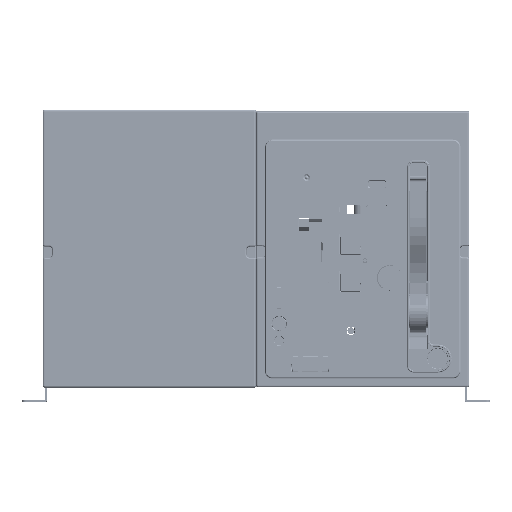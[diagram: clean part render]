
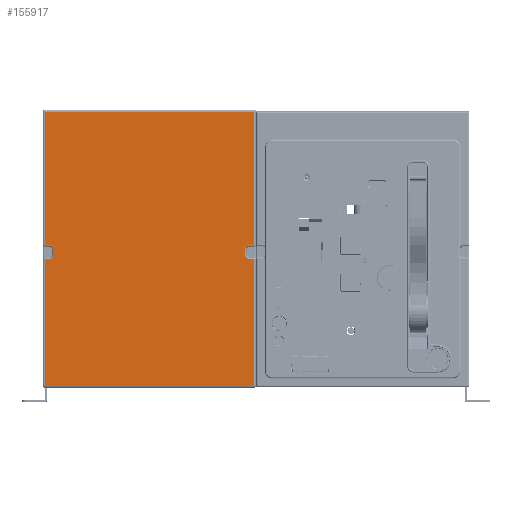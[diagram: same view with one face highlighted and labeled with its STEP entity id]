
A CAD part, top view. The second image highlights one B-rep face of the part: STEP entity #155917.
In plain terms, the highlighted planar face has unit normal (0, 0, 1).
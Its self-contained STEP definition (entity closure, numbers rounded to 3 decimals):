
#149996=DIRECTION('',(0.,-1.,0.));
#149997=VECTOR('',#149996,175.5);
#149998=CARTESIAN_POINT('',(-145.,-14.5,49.));
#149999=LINE('',#149998,#149997);
#150114=DIRECTION('',(0.,-1.,0.));
#150115=VECTOR('',#150114,185.1);
#150116=CARTESIAN_POINT('',(-145.,190.,49.));
#150117=LINE('',#150116,#150115);
#150133=DIRECTION('',(-1.,0.,0.));
#150134=VECTOR('',#150133,290.);
#150135=CARTESIAN_POINT('',(145.,190.,49.));
#150136=LINE('',#150135,#150134);
#150141=CARTESIAN_POINT('',(139.5,-1.6,49.));
#150142=DIRECTION('',(0.,0.,1.));
#150143=DIRECTION('',(0.,1.,0.));
#150144=AXIS2_PLACEMENT_3D('',#150141,#150142,#150143);
#150146=CARTESIAN_POINT('',(139.5,-8.,49.));
#150147=DIRECTION('',(0.,0.,1.));
#150148=DIRECTION('',(-1.,0.,0.));
#150149=AXIS2_PLACEMENT_3D('',#150146,#150147,#150148);
#150151=CARTESIAN_POINT('',(-139.5,-8.,49.));
#150152=DIRECTION('',(0.,0.,1.));
#150153=DIRECTION('',(0.,-1.,0.));
#150154=AXIS2_PLACEMENT_3D('',#150151,#150152,#150153);
#150156=CARTESIAN_POINT('',(-139.5,-1.6,49.));
#150157=DIRECTION('',(0.,0.,1.));
#150158=DIRECTION('',(1.,0.,0.));
#150159=AXIS2_PLACEMENT_3D('',#150156,#150157,#150158);
#150165=DIRECTION('',(0.,1.,0.));
#150166=VECTOR('',#150165,185.1);
#150167=CARTESIAN_POINT('',(145.,4.9,49.));
#150168=LINE('',#150167,#150166);
#150211=DIRECTION('',(1.,0.,0.));
#150212=VECTOR('',#150211,290.);
#150213=CARTESIAN_POINT('',(-145.,-190.,49.));
#150214=LINE('',#150213,#150212);
#150244=DIRECTION('',(0.,1.,0.));
#150245=VECTOR('',#150244,175.5);
#150246=CARTESIAN_POINT('',(145.,-190.,49.));
#150247=LINE('',#150246,#150245);
#150267=DIRECTION('',(-1.,0.,0.));
#150268=VECTOR('',#150267,5.5);
#150269=CARTESIAN_POINT('',(145.,-14.5,49.));
#150270=LINE('',#150269,#150268);
#150290=DIRECTION('',(0.,1.,0.));
#150291=VECTOR('',#150290,6.4);
#150292=CARTESIAN_POINT('',(133.,-8.,49.));
#150293=LINE('',#150292,#150291);
#150317=DIRECTION('',(1.,0.,0.));
#150318=VECTOR('',#150317,5.5);
#150319=CARTESIAN_POINT('',(139.5,4.9,49.));
#150320=LINE('',#150319,#150318);
#153930=DIRECTION('',(-1.,0.,0.));
#153931=VECTOR('',#153930,5.5);
#153932=CARTESIAN_POINT('',(-139.5,-14.5,49.));
#153933=LINE('',#153932,#153931);
#153961=DIRECTION('',(0.,-1.,0.));
#153962=VECTOR('',#153961,6.4);
#153963=CARTESIAN_POINT('',(-133.,-1.6,49.));
#153964=LINE('',#153963,#153962);
#153992=DIRECTION('',(1.,0.,0.));
#153993=VECTOR('',#153992,5.5);
#153994=CARTESIAN_POINT('',(-145.,4.9,49.));
#153995=LINE('',#153994,#153993);
#154219=CARTESIAN_POINT('',(-145.,-14.5,49.));
#154220=VERTEX_POINT('',#154219);
#154221=CARTESIAN_POINT('',(-145.,-190.,49.));
#154222=VERTEX_POINT('',#154221);
#154251=CARTESIAN_POINT('',(-145.,4.9,49.));
#154252=VERTEX_POINT('',#154251);
#154253=CARTESIAN_POINT('',(-145.,190.,49.));
#154254=VERTEX_POINT('',#154253);
#154257=CARTESIAN_POINT('',(145.,190.,49.));
#154258=VERTEX_POINT('',#154257);
#154261=CARTESIAN_POINT('',(145.,4.9,49.));
#154262=VERTEX_POINT('',#154261);
#154263=CARTESIAN_POINT('',(139.5,4.9,49.));
#154264=VERTEX_POINT('',#154263);
#154265=CARTESIAN_POINT('',(133.,-1.6,49.));
#154266=VERTEX_POINT('',#154265);
#154267=CARTESIAN_POINT('',(133.,-8.,49.));
#154268=VERTEX_POINT('',#154267);
#154269=CARTESIAN_POINT('',(139.5,-14.5,49.));
#154270=VERTEX_POINT('',#154269);
#154271=CARTESIAN_POINT('',(145.,-14.5,49.));
#154272=VERTEX_POINT('',#154271);
#154273=CARTESIAN_POINT('',(145.,-190.,49.));
#154274=VERTEX_POINT('',#154273);
#154275=CARTESIAN_POINT('',(-139.5,-14.5,49.));
#154276=VERTEX_POINT('',#154275);
#154277=CARTESIAN_POINT('',(-133.,-8.,49.));
#154278=VERTEX_POINT('',#154277);
#154279=CARTESIAN_POINT('',(-133.,-1.6,49.));
#154280=VERTEX_POINT('',#154279);
#154281=CARTESIAN_POINT('',(-139.5,4.9,49.));
#154282=VERTEX_POINT('',#154281);
#155881=CARTESIAN_POINT('',(0.,0.,49.));
#155882=DIRECTION('',(0.,0.,1.));
#155883=DIRECTION('',(1.,0.,0.));
#155884=AXIS2_PLACEMENT_3D('',#155881,#155882,#155883);
#155885=PLANE('',#155884);
#155887=ORIENTED_EDGE('',*,*,#155886,.F.);
#155889=ORIENTED_EDGE('',*,*,#155888,.F.);
#155891=ORIENTED_EDGE('',*,*,#155890,.T.);
#155893=ORIENTED_EDGE('',*,*,#155892,.F.);
#155895=ORIENTED_EDGE('',*,*,#155894,.T.);
#155897=ORIENTED_EDGE('',*,*,#155896,.F.);
#155899=ORIENTED_EDGE('',*,*,#155898,.F.);
#155901=ORIENTED_EDGE('',*,*,#155900,.F.);
#155902=ORIENTED_EDGE('',*,*,#155681,.F.);
#155904=ORIENTED_EDGE('',*,*,#155903,.F.);
#155906=ORIENTED_EDGE('',*,*,#155905,.T.);
#155908=ORIENTED_EDGE('',*,*,#155907,.F.);
#155910=ORIENTED_EDGE('',*,*,#155909,.T.);
#155912=ORIENTED_EDGE('',*,*,#155911,.F.);
#155913=ORIENTED_EDGE('',*,*,#155847,.F.);
#155914=ORIENTED_EDGE('',*,*,#155871,.F.);
#155915=EDGE_LOOP('',(#155887,#155889,#155891,#155893,#155895,#155897,#155899,
#155901,#155902,#155904,#155906,#155908,#155910,#155912,#155913,#155914));
#155916=FACE_OUTER_BOUND('',#155915,.F.);
#155917=ADVANCED_FACE('',(#155916),#155885,.T.);
#150145=CIRCLE('',#150144,6.5);
#150150=CIRCLE('',#150149,6.5);
#150155=CIRCLE('',#150154,6.5);
#150160=CIRCLE('',#150159,6.5);
#155681=EDGE_CURVE('',#154220,#154222,#149999,.T.);
#155847=EDGE_CURVE('',#154254,#154252,#150117,.T.);
#155871=EDGE_CURVE('',#154258,#154254,#150136,.T.);
#155886=EDGE_CURVE('',#154262,#154258,#150168,.T.);
#155888=EDGE_CURVE('',#154264,#154262,#150320,.T.);
#155890=EDGE_CURVE('',#154264,#154266,#150145,.T.);
#155892=EDGE_CURVE('',#154268,#154266,#150293,.T.);
#155894=EDGE_CURVE('',#154268,#154270,#150150,.T.);
#155896=EDGE_CURVE('',#154272,#154270,#150270,.T.);
#155898=EDGE_CURVE('',#154274,#154272,#150247,.T.);
#155900=EDGE_CURVE('',#154222,#154274,#150214,.T.);
#155903=EDGE_CURVE('',#154276,#154220,#153933,.T.);
#155905=EDGE_CURVE('',#154276,#154278,#150155,.T.);
#155907=EDGE_CURVE('',#154280,#154278,#153964,.T.);
#155909=EDGE_CURVE('',#154280,#154282,#150160,.T.);
#155911=EDGE_CURVE('',#154252,#154282,#153995,.T.);
